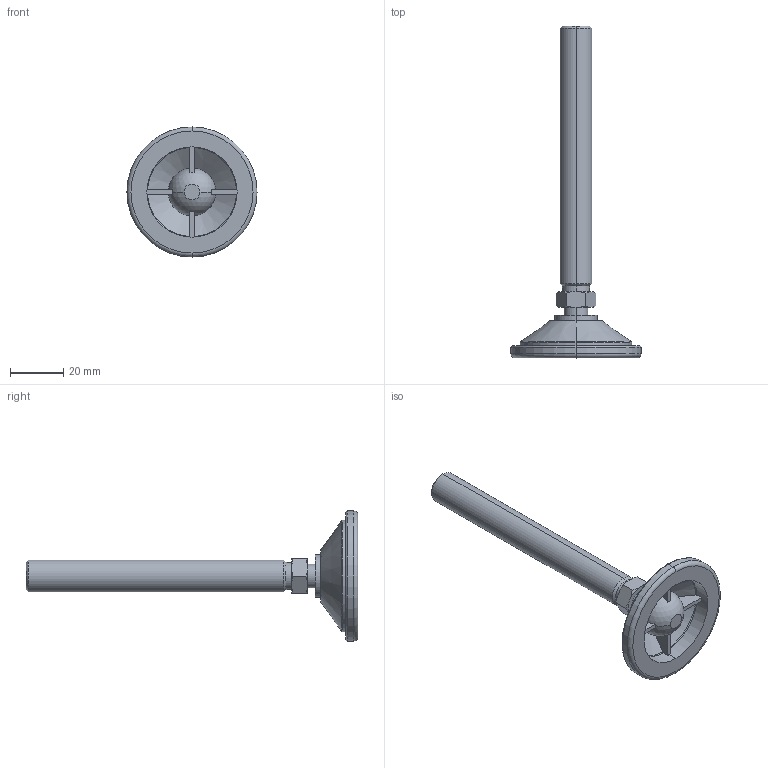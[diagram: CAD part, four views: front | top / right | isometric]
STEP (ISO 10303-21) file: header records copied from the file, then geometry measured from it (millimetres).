
FILE_DESCRIPTION (( 'STEP AP203' ), '1' );
FILE_NAME ('3472.W125.step', '2009-10-21T17:00:29', ( 'Wixroyd' ), ( 'Wixroyd' ), 'SwSTEP 2.0', 'SolidWorks 2009', '' );
FILE_SCHEMA (( 'CONFIG_CONTROL_DESIGN' ));
Length unit declared in the file: millimetre
Products named in the file (3): Part1_3472W125; Part2_3472W125; 3472.W125
Assembly tree (2 placements, depth 2):
  3472.W125
    Part2_3472W125
    Part1_3472W125
Bounding box: 49 x 125 x 49 mm (x, y, z)
Volume: 23001 mm3; surface area: 11858.3 mm2
Topology: 2 solids, 2 shells, 95 faces, 231 edges, 145 vertices
Faces by surface type: plane 39, cone 22, cylinder 16, torus 12, sphere 6
Entity records: 3197 total; most frequent: CARTESIAN_POINT 672, DIRECTION 514, ORIENTED_EDGE 446, AXIS2_PLACEMENT_3D 231, EDGE_CURVE 223, VERTEX_POINT 141, CIRCLE 131, EDGE_LOOP 104
